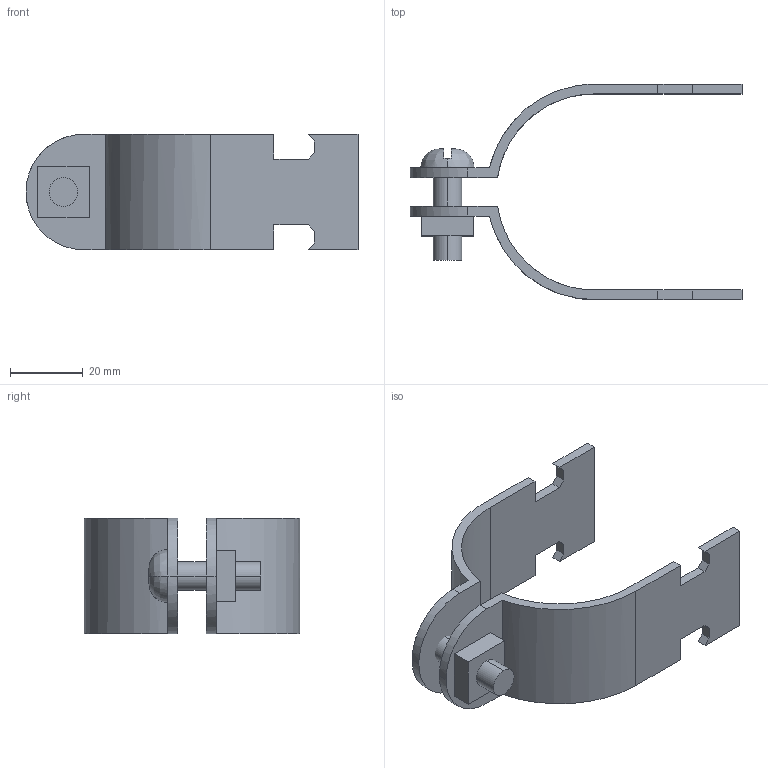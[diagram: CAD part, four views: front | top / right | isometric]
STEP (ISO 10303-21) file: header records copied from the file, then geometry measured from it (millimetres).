
FILE_DESCRIPTION(('TurboCAD Mac Pro'),'Build 980');
FILE_NAME('P2039.stp',' ',(''),(''),'ACIS Interop','IMSI','TurboCAD Mac Pro BY IMSI, INCORPORATED');
FILE_SCHEMA(('automotive_design'));
Length unit declared in the file: inch
Products named in the file (5): 1; 2; 3; 4; 5
Bounding box: 91.3 x 59.25 x 31.74 mm (x, y, z)
Volume: 18708.4 mm3; surface area: 15436.3 mm2
Topology: 4 solids, 4 shells, 75 faces, 194 edges, 128 vertices
Faces by surface type: plane 51, bspline 24
Entity records: 3631 total; most frequent: CARTESIAN_POINT 1138, ORIENTED_EDGE 388, DIRECTION 262, EDGE_CURVE 194, LINE 142, VECTOR 142, VERTEX_POINT 128, STYLED_ITEM 91
